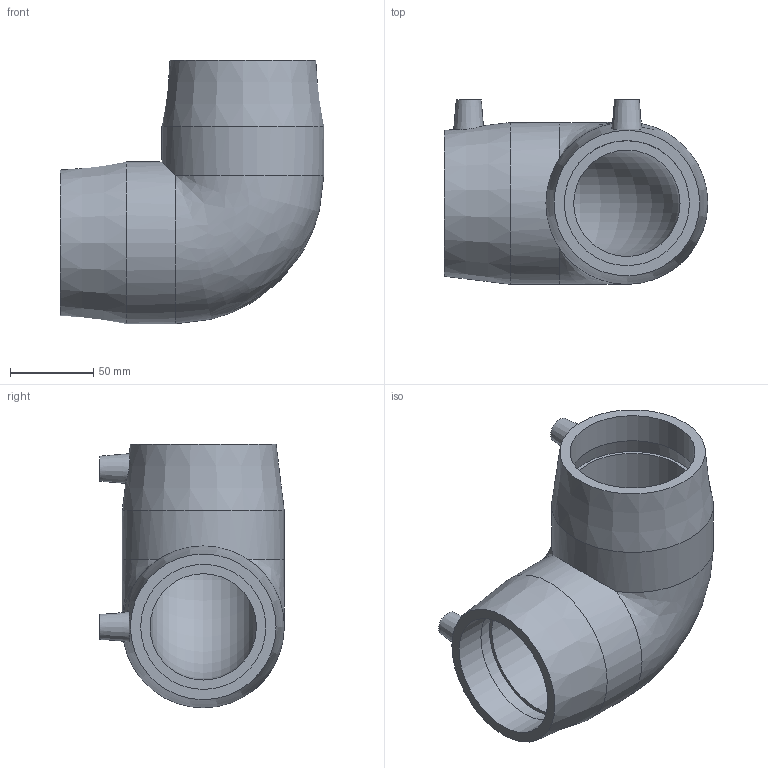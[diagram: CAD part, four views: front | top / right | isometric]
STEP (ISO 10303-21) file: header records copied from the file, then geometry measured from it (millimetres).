
FILE_DESCRIPTION(/* description */ ('PLASSON 90° ELBOW 75'),/* implementation_level */ '2;1');
FILE_NAME(/* name */ '490504075.stp',/* time_stamp */ '2026-03-22T13:14:59+02:00',/* author */ ('KIM'),/* organization */ (''),/* preprocessor_version */ 'ST-DEVELOPER v20.1',/* originating_system */ 'Autodesk Inventor 2026',/* authorisation */ '');
FILE_SCHEMA (('AUTOMOTIVE_DESIGN { 1 0 10303 214 3 1 1 }'));
Length unit declared in the file: millimetre
Products named in the file (1): 490504075
Bounding box: 158 x 110.5 x 158 mm (x, y, z)
Volume: 626660.6 mm3; surface area: 115078.9 mm2
Topology: 1 solids, 1 shells, 30 faces, 54 edges, 34 vertices
Faces by surface type: plane 12, cylinder 10, cone 6, bspline 1, torus 1
Full cylindrical faces by diameter (mm): 4 x2, 10 x2, 75 x4, 97 x2
Entity records: 861 total; most frequent: CARTESIAN_POINT 211, DIRECTION 140, ORIENTED_EDGE 104, AXIS2_PLACEMENT_3D 62, EDGE_CURVE 52, EDGE_LOOP 42, VERTEX_POINT 34, CIRCLE 31
